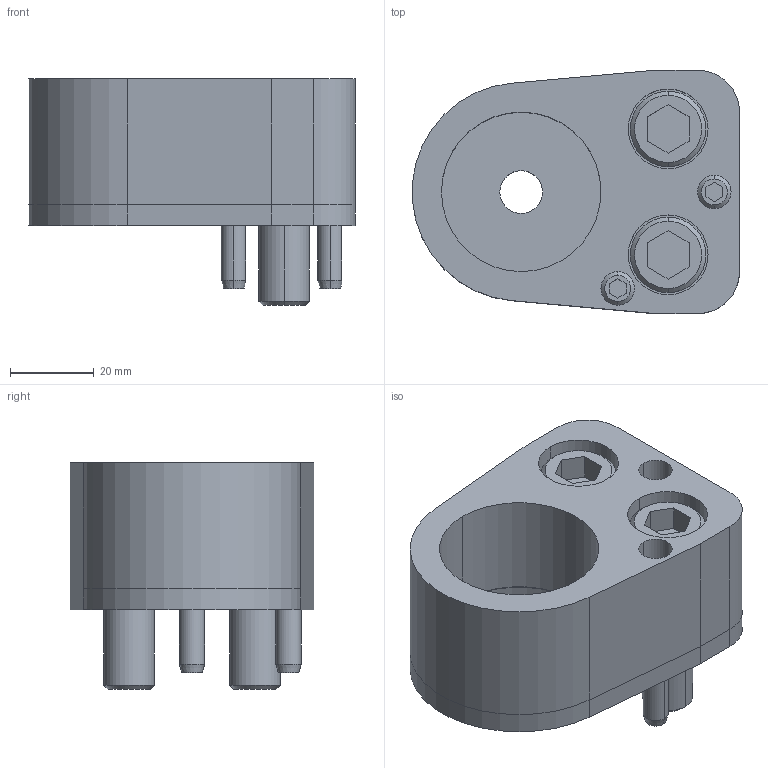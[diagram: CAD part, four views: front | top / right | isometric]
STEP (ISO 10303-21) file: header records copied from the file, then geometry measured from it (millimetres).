
FILE_DESCRIPTION(/* description */ (''),/* implementation_level */ '2;1');
FILE_NAME(/* name */ '3d_cp-ap38_02856_r00.stp',/* time_stamp */ '2011-01-10T14:16:29+09:00',/* author */ ('MISUMI'),/* organization */ (''),/* preprocessor_version */ 'ST-DEVELOPER v11',/* originating_system */ 'UGS - NX 5.0',/* authorisation */ '');
FILE_SCHEMA (('CONFIG_CONTROL_DESIGN'));
Length unit declared in the file: millimetre
Products named in the file (1): 3d_cp-ap38_02856_r00
Bounding box: 77.9 x 58 x 54 mm (x, y, z)
Volume: 102162.4 mm3; surface area: 36678.6 mm2
Topology: 8 solids, 8 shells, 152 faces, 340 edges, 218 vertices
Faces by surface type: plane 66, cylinder 60, cone 26
Entity records: 4397 total; most frequent: DIRECTION 788, CARTESIAN_POINT 762, ORIENTED_EDGE 680, EDGE_CURVE 340, AXIS2_PLACEMENT_3D 299, VERTEX_POINT 218, LINE 190, VECTOR 190
